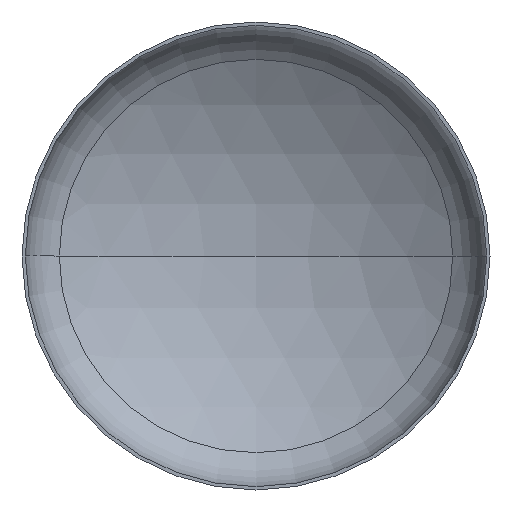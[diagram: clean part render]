
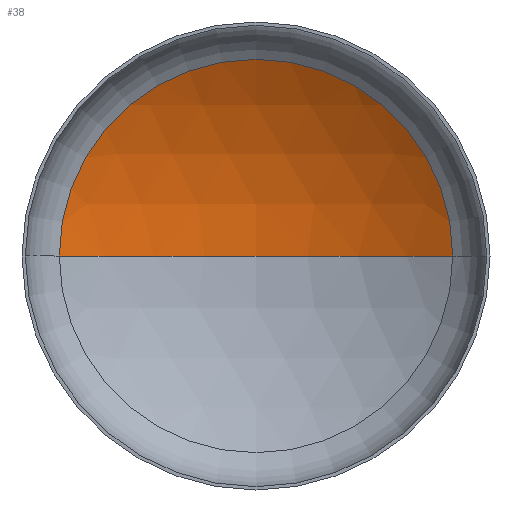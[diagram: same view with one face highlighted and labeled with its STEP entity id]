
A CAD part, front view. The second image highlights one B-rep face of the part: STEP entity #38.
In plain terms, the highlighted spherical face has radius 1440 mm.
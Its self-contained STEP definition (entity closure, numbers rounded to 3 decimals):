
#3 = DIRECTION ( 'NONE',  ( 0., 0., 1. ) ) ;
#15 = CARTESIAN_POINT ( 'NONE',  ( -756.464, 273.998, 0. ) ) ;
#23 = EDGE_LOOP ( 'NONE', ( #164, #28, #151 ) ) ;
#28 = ORIENTED_EDGE ( 'NONE', *, *, #100, .T. ) ;
#38 = ADVANCED_FACE ( 'NONE', ( #331 ), #275, .F. ) ;
#45 = AXIS2_PLACEMENT_3D ( 'NONE', #401, #3, #160 ) ;
#51 = AXIS2_PLACEMENT_3D ( 'NONE', #219, #203, #207 ) ;
#53 = AXIS2_PLACEMENT_3D ( 'NONE', #237, #233, #236 ) ;
#78 = AXIS2_PLACEMENT_3D ( 'NONE', #294, #297, #290 ) ;
#97 = EDGE_CURVE ( 'NONE', #101, #126, #316, .T. ) ;
#100 = EDGE_CURVE ( 'NONE', #143, #101, #262, .T. ) ;
#101 = VERTEX_POINT ( 'NONE', #322 ) ;
#102 = EDGE_CURVE ( 'NONE', #143, #126, #187, .T. ) ;
#126 = VERTEX_POINT ( 'NONE', #15 ) ;
#143 = VERTEX_POINT ( 'NONE', #161 ) ;
#151 = ORIENTED_EDGE ( 'NONE', *, *, #97, .T. ) ;
#160 = DIRECTION ( 'NONE',  ( 1., 0., 0. ) ) ;
#161 = CARTESIAN_POINT ( 'NONE',  ( 0., 488.697, 0. ) ) ;
#164 = ORIENTED_EDGE ( 'NONE', *, *, #102, .F. ) ;
#187 = CIRCLE ( 'NONE', #45, 1440. ) ;
#203 = DIRECTION ( 'NONE',  ( 0., 0., -1. ) ) ;
#207 = DIRECTION ( 'NONE',  ( -1., 0., 0. ) ) ;
#219 = CARTESIAN_POINT ( 'NONE',  ( 0., -951.303, 0. ) ) ;
#233 = DIRECTION ( 'NONE',  ( 0., -1., 0. ) ) ;
#236 = DIRECTION ( 'NONE',  ( 1., 0., 0. ) ) ;
#237 = CARTESIAN_POINT ( 'NONE',  ( 0., 273.998, 0. ) ) ;
#262 = CIRCLE ( 'NONE', #51, 1440. ) ;
#275 = SPHERICAL_SURFACE ( 'NONE', #78, 1440. ) ;
#290 = DIRECTION ( 'NONE',  ( -1., 0., 0. ) ) ;
#294 = CARTESIAN_POINT ( 'NONE',  ( 0., -951.303, 0. ) ) ;
#297 = DIRECTION ( 'NONE',  ( 0., 0., -1. ) ) ;
#316 = CIRCLE ( 'NONE', #53, 756.464 ) ;
#322 = CARTESIAN_POINT ( 'NONE',  ( 756.464, 273.998, 0. ) ) ;
#331 = FACE_OUTER_BOUND ( 'NONE', #23, .T. ) ;
#401 = CARTESIAN_POINT ( 'NONE',  ( 0., -951.303, 0. ) ) ;
